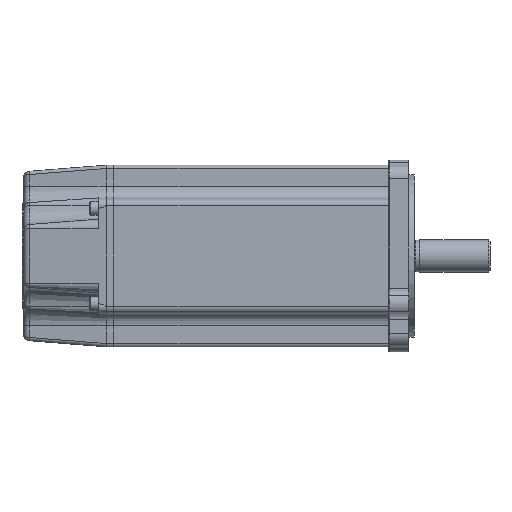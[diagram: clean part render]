
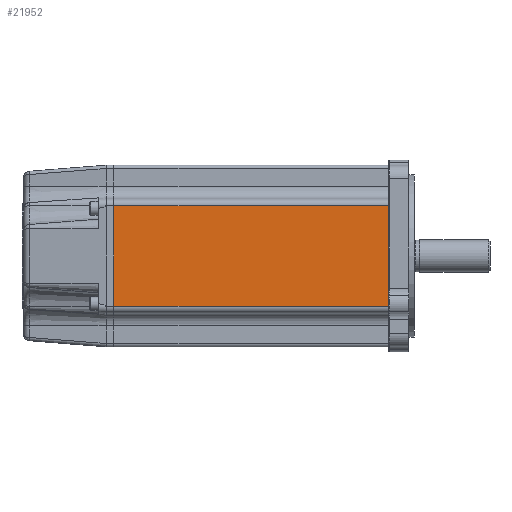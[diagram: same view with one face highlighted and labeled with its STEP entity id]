
A CAD part, front view. The second image highlights one B-rep face of the part: STEP entity #21952.
In plain terms, the highlighted planar face has unit normal (0, -1, 0).
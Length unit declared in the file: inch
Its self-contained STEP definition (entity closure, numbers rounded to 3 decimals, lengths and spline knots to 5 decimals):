
#994 = DIRECTION ( 'NONE',  ( 0., 0., 1. ) ) ;
#2527 = FACE_OUTER_BOUND ( 'NONE', #22351, .T. ) ;
#2883 = EDGE_CURVE ( 'NONE', #35772, #55155, #14704, .T. ) ;
#2939 = ORIENTED_EDGE ( 'NONE', *, *, #28033, .T. ) ;
#4679 = CARTESIAN_POINT ( 'NONE',  ( -0.39, -1.76, -1.76 ) ) ;
#8265 = VERTEX_POINT ( 'NONE', #29326 ) ;
#9168 = LINE ( 'NONE', #4679, #19395 ) ;
#12018 = ORIENTED_EDGE ( 'NONE', *, *, #19756, .T. ) ;
#14704 = LINE ( 'NONE', #33713, #24914 ) ;
#15268 = VECTOR ( 'NONE', #994, 39.37008 ) ;
#18232 = DIRECTION ( 'NONE',  ( 0., 0., 1. ) ) ;
#18961 = CARTESIAN_POINT ( 'NONE',  ( -0.39, -1.76, -0.979 ) ) ;
#19395 = VECTOR ( 'NONE', #18232, 39.37008 ) ;
#19731 = VERTEX_POINT ( 'NONE', #53630 ) ;
#19756 = EDGE_CURVE ( 'NONE', #19731, #8265, #25466, .T. ) ;
#20123 = AXIS2_PLACEMENT_3D ( 'NONE', #25121, #55610, #29502 ) ;
#20771 = DIRECTION ( 'NONE',  ( -1., 0., 0. ) ) ;
#21952 = ADVANCED_FACE ( 'NONE', ( #2527 ), #33701, .F. ) ;
#22351 = EDGE_LOOP ( 'NONE', ( #2939, #24328, #43121, #12018 ) ) ;
#24328 = ORIENTED_EDGE ( 'NONE', *, *, #2883, .T. ) ;
#24914 = VECTOR ( 'NONE', #20771, 39.37008 ) ;
#25121 = CARTESIAN_POINT ( 'NONE',  ( -5.72, -1.76, -1.76 ) ) ;
#25466 = LINE ( 'NONE', #18961, #47252 ) ;
#28033 = EDGE_CURVE ( 'NONE', #8265, #35772, #9168, .T. ) ;
#28170 = CARTESIAN_POINT ( 'NONE',  ( -0.39, -1.76, 0.979 ) ) ;
#29326 = CARTESIAN_POINT ( 'NONE',  ( -0.39, -1.76, -0.979 ) ) ;
#29502 = DIRECTION ( 'NONE',  ( 0., 0., 1. ) ) ;
#33701 = PLANE ( 'NONE',  #20123 ) ;
#33713 = CARTESIAN_POINT ( 'NONE',  ( -5.72, -1.76, 0.979 ) ) ;
#35772 = VERTEX_POINT ( 'NONE', #28170 ) ;
#43121 = ORIENTED_EDGE ( 'NONE', *, *, #49955, .F. ) ;
#44321 = CARTESIAN_POINT ( 'NONE',  ( -5.72, -1.76, 0.979 ) ) ;
#47252 = VECTOR ( 'NONE', #49427, 39.37008 ) ;
#48682 = LINE ( 'NONE', #49367, #15268 ) ;
#49367 = CARTESIAN_POINT ( 'NONE',  ( -5.72, -1.76, -1.76 ) ) ;
#49427 = DIRECTION ( 'NONE',  ( 1., 0., 0. ) ) ;
#49955 = EDGE_CURVE ( 'NONE', #19731, #55155, #48682, .T. ) ;
#53630 = CARTESIAN_POINT ( 'NONE',  ( -5.72, -1.76, -0.979 ) ) ;
#55155 = VERTEX_POINT ( 'NONE', #44321 ) ;
#55610 = DIRECTION ( 'NONE',  ( 0., 1., 0. ) ) ;
